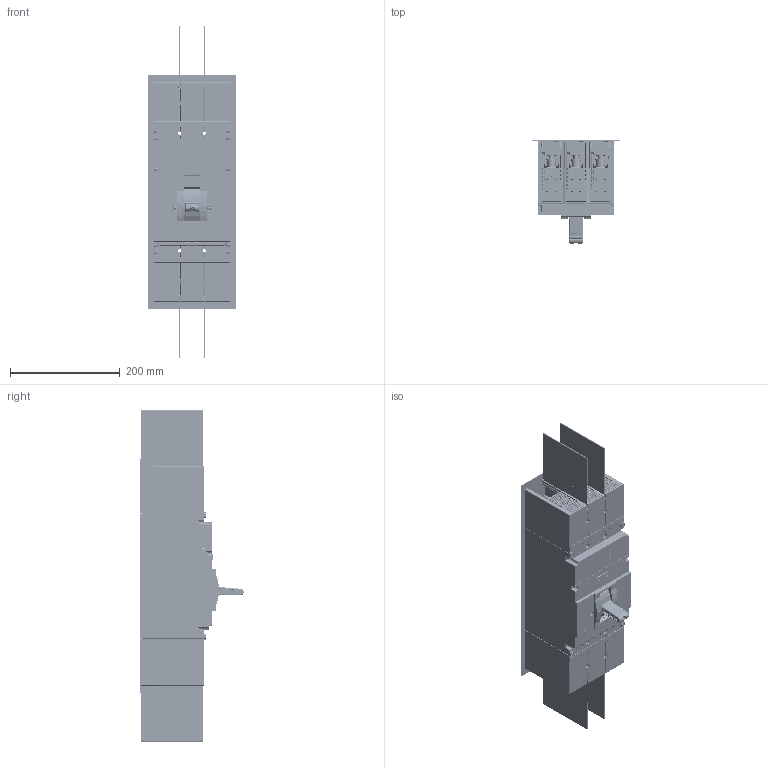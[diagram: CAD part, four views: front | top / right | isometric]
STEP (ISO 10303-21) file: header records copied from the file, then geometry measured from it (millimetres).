
FILE_DESCRIPTION((''),'2;1');
FILE_NAME('NM8N-400HVS_TM_400_3P_ASM','2023-02-06T14:41:30',('wanhf'),(''),'CREO PARAMETRIC BY PTC INC, 2020044','CREO PARAMETRIC BY PTC INC, 2020044','');
FILE_SCHEMA(('CONFIG_CONTROL_DESIGN','SHAPE_APPEARANCE_LAYERS_GROUPS'));
Products named in the file (58): 8ZTD_024_1075_253_1_1_1_1_1_1_1; 8300M0101003_129_1_1_1_1_1_1_1_; 5ZTD_024_1057_ASM_81_ASM_1_ASM__ASM; 8ZTD_300_731_371_1_1_1_1_1_1_1_; 8ZTD_585_1623_340_1_1_1_1_1_1_1; 5ZTD_550_890_1-2_ASM_377_ASM_1__ASM; 8ZTD_300_730_415_1_1_1_1_1_1_1_; SP090121_95_1_1_1_1_1_1_1_1; 5ZTD_005_558_1-2_ASM_243_ASM_1__ASM; 8ZTD_300_729_438_1_1_1_1_1_1_1_; 8ZTD_325_347_337_1_1_1_1_1_1_1_; SP050003_91_1_1_1_1_1_1_1_1; 5ZTD_005_557_1-2_ASM_235_ASM_1__ASM; 8ZTD_300_732_299_1_1_1_1_1_1_1_; 5ZTD_005_559_1-2_ASM_158_ASM_1__ASM; 8ZTD_253_924_186_1_1_1_1_1_1_1_; 5ZTD_253_496_ASM_165_ASM_1_ASM__ASM; SP110737_32_1_1_1_1_1_1_1_1; 5ZTD_519_1753_1-2_ASM_187_ASM_1_ASM; 8ZTD_040_684_152_1_1_1_1_1_1_1_; 5ZTD_024_1058V_213_1_1_1_1_1_1_; 5ZTD_024_1058_ASM_208_ASM_1_ASM_ASM; 8612M0306004HW_137_1_1_1_1_1_1_; 8043M0804101_176_1_1_1_1_1_1_1_; 8206M0810012_175_1_1_1_1_1_1_1_; SP040763_31_1_1_1_1_1_1_1_1; 8ZTD_253_836_112_1_1_1_1_1_1_1_; 8ZTD_253_837_113_1_1_1_1_1_1_1_; 8288M08201851-8_180_1_1_1_1_1_1; 5ZTD_422_042_1-13_ASM_134_ASM_1_ASM; 8ZTD_315_1819_1-2_186_1_1_1_1_1; 8ZTD_253_1014_89_1_1_1_1_1_1_1_; 5ZTD_315_635_1-2_ASM_78_ASM_1_A_ASM; 8ZTD_310_550_93_1_1_1_1_1_1_1_1; SP070378_17_1_1_1_1_1_1_1_1; SP070382_18_1_1_1_1_1_1_1_1; SP040764_37_1_1_1_1_1_1_1_1; SP040762_38_1_1_1_1_1_1_1_1; SP110735_18_1_1_1_1_1_1_1_1; SP070385_16_1_1_1_1_1_1_1_1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
Assembly tree (106 placements, depth 14):
  NM8N-400HVS_TM_400_3P_ASM
    NM8N-400HVS_TM_400_3P_AS-660677_ASM
      NM8N-400HVS_TM_400_3P_AS-529677_ASM
        NM8N-400HVS_TM_400_3P_ASM_1_ASM_ASM
          NM8N-400HVS_TM_400_3P_AS-513673_ASM
            NM8N-400HVS_TM_400_3P_AS-513641_ASM
              NM8N-400HV_3P-0001_ASM_1_ASM_1__ASM
                NM8N-400HV0001_ASM_1_ASM_1_ASM__ASM
                  2ZTD_256_838_1-13_ASM_ASM_1_ASM_ASM
            8ZTD_157_119_121_1_1_1_1_1_1_1_  x5
            5ZTD_420_246_1-9_ASM_164_ASM_1__ASM  x3
              8ZTD_420_592_1-3_43_1_1_1_1_1_1
              8612M0306003HW_170_1_1_1_1_1_1_
            8ZTD_750_1141_9_1_1_1
            8ZTD_742_2332_58_1_1_1  x4
            SP070385_16_1_1_1_1_1_1_1_1  x2
        PRT0003_1_1
        00_1_1
Bounding box: 160 x 188.66 x 606.01 mm (x, y, z)
Volume: 1935146.7 mm3; surface area: 1660046.3 mm2
Topology: 86 solids, 119 shells, 21446 faces, 61736 edges, 40417 vertices
Faces by surface type: plane 12858, cylinder 5946, cone 857, torus 848, sphere 454, bspline 337, extrusion 146
Entity records: 652208 total; most frequent: CARTESIAN_POINT 121176, ORIENTED_EDGE 91826, DIRECTION 87685, EDGE_CURVE 45939, VECTOR 31461, LINE 31395, VERTEX_POINT 30434, AXIS2_PLACEMENT_3D 28112
